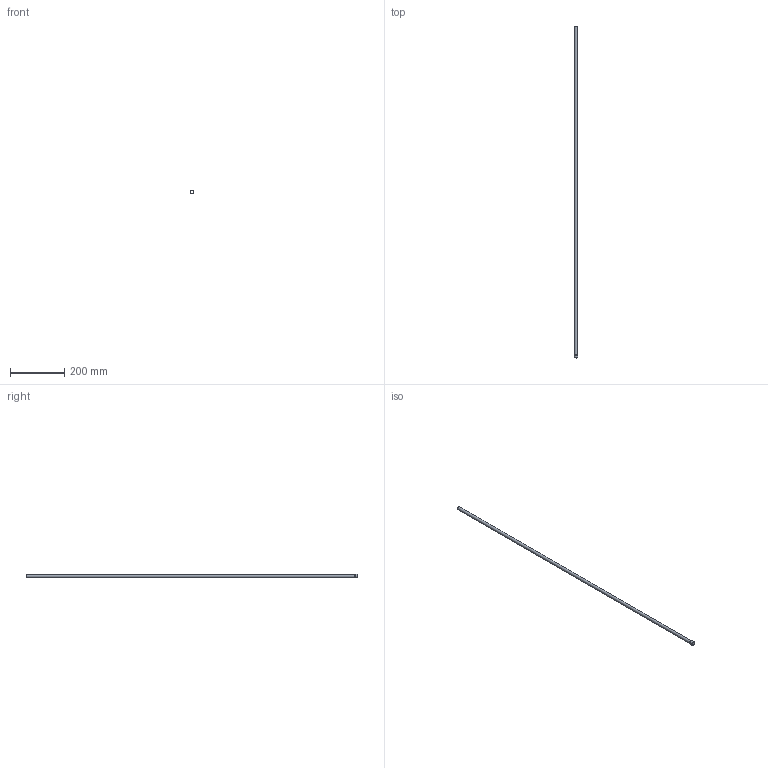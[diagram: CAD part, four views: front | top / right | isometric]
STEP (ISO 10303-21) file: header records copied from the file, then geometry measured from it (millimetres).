
FILE_DESCRIPTION(/* description */ (''),/* implementation_level */ '2;1');
FILE_NAME(/* name */ 'C:/Users/drich/Desktop/JHF437T-48 v1.step',/* time_stamp */ '2020-01-02T20:09:20-06:00',/* author */ (''),/* organization */ (''),/* preprocessor_version */ 'ST-DEVELOPER v18',/* originating_system */ 'Autodesk Translation Framework v8.12.0.6',/* authorisation */ '');
FILE_SCHEMA (('AUTOMOTIVE_DESIGN { 1 0 10303 214 3 1 1 }'));
Length unit declared in the file: inch
Products named in the file (1): JHF437T-48
Bounding box: 14.33 x 1219.2 x 14.33 mm (x, y, z)
Volume: 16158.3 mm3; surface area: 80453.1 mm2
Topology: 1 solids, 1 shells, 10 faces, 24 edges, 18 vertices
Faces by surface type: cylinder 4, plane 4, cone 1, torus 1
Full cylindrical faces by diameter (mm): 10.084 x1, 10.846 x1, 14.176 x1, 14.326 x1
Entity records: 354 total; most frequent: DIRECTION 65, CARTESIAN_POINT 53, ORIENTED_EDGE 48, AXIS2_PLACEMENT_3D 30, EDGE_CURVE 24, CIRCLE 19, VERTEX_POINT 18, EDGE_LOOP 14
